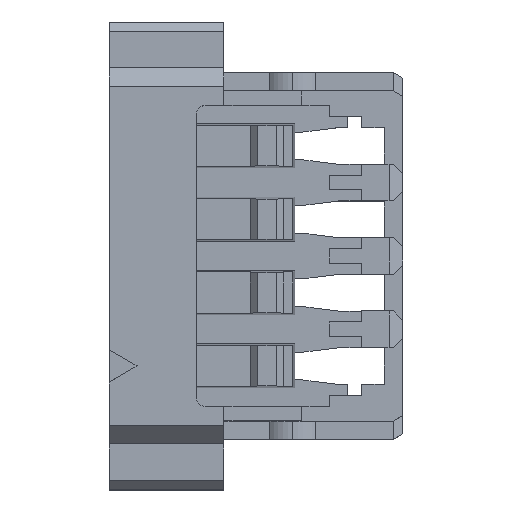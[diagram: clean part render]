
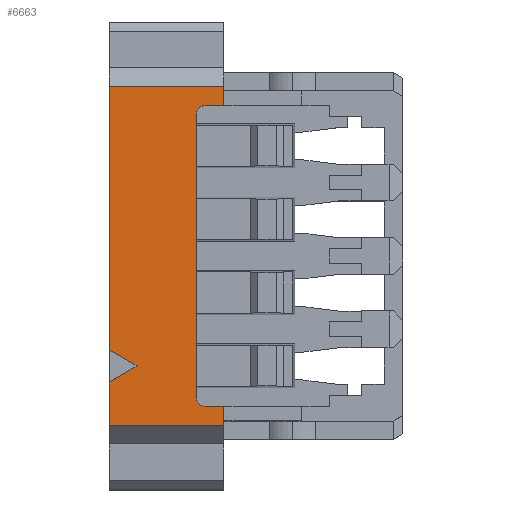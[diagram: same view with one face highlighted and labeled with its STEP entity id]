
A CAD part, top view. The second image highlights one B-rep face of the part: STEP entity #6663.
In plain terms, the highlighted planar face has unit normal (0, 0, 1).
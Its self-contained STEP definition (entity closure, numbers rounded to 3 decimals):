
#1533=DIRECTION('',(0.,-1.,0.));
#1534=VECTOR('',#1533,3.08);
#1535=CARTESIAN_POINT('',(0.85,-3.26,0.825));
#1536=LINE('',#1535,#1534);
#1718=DIRECTION('',(0.,1.,0.));
#1719=VECTOR('',#1718,0.475);
#1720=CARTESIAN_POINT('',(-0.1,-6.65,0.825));
#1721=LINE('',#1720,#1719);
#1842=DIRECTION('',(0.,-1.,0.));
#1843=VECTOR('',#1842,2.875);
#1844=CARTESIAN_POINT('',(-0.1,-2.95,0.825));
#1845=LINE('',#1844,#1843);
#1846=DIRECTION('',(0.,1.,0.));
#1847=VECTOR('',#1846,0.21);
#1848=CARTESIAN_POINT('',(1.15,-3.16,0.825));
#1849=LINE('',#1848,#1847);
#1850=DIRECTION('',(1.,0.,0.));
#1851=VECTOR('',#1850,0.2);
#1852=CARTESIAN_POINT('',(0.95,-3.16,0.825));
#1853=LINE('',#1852,#1851);
#1854=CARTESIAN_POINT('',(0.95,-3.26,0.825));
#1855=DIRECTION('',(0.,0.,-1.));
#1856=DIRECTION('',(-1.,0.,0.));
#1857=AXIS2_PLACEMENT_3D('',#1854,#1855,#1856);
#1859=CARTESIAN_POINT('',(0.95,-6.34,0.825));
#1860=DIRECTION('',(0.,0.,-1.));
#1861=DIRECTION('',(0.,-1.,0.));
#1862=AXIS2_PLACEMENT_3D('',#1859,#1860,#1861);
#1864=DIRECTION('',(-1.,0.,0.));
#1865=VECTOR('',#1864,0.2);
#1866=CARTESIAN_POINT('',(1.15,-6.44,0.825));
#1867=LINE('',#1866,#1865);
#1868=DIRECTION('',(0.,1.,0.));
#1869=VECTOR('',#1868,0.21);
#1870=CARTESIAN_POINT('',(1.15,-6.65,0.825));
#1871=LINE('',#1870,#1869);
#1872=DIRECTION('',(1.,0.,0.));
#1873=VECTOR('',#1872,1.25);
#1874=CARTESIAN_POINT('',(-0.1,-6.65,0.825));
#1875=LINE('',#1874,#1873);
#1876=DIRECTION('',(-0.866,-0.5,0.));
#1877=VECTOR('',#1876,0.35);
#1878=CARTESIAN_POINT('',(0.203,-6.,0.825));
#1879=LINE('',#1878,#1877);
#1880=DIRECTION('',(0.866,-0.5,0.));
#1881=VECTOR('',#1880,0.35);
#1882=CARTESIAN_POINT('',(-0.1,-5.825,0.825));
#1883=LINE('',#1882,#1881);
#1884=DIRECTION('',(1.,0.,0.));
#1885=VECTOR('',#1884,1.25);
#1886=CARTESIAN_POINT('',(-0.1,-2.95,0.825));
#1887=LINE('',#1886,#1885);
#3318=CARTESIAN_POINT('',(0.85,-3.26,0.825));
#3319=CARTESIAN_POINT('',(0.95,-3.16,0.825));
#3320=VERTEX_POINT('',#3318);
#3321=VERTEX_POINT('',#3319);
#3354=CARTESIAN_POINT('',(1.15,-6.44,0.825));
#3355=VERTEX_POINT('',#3354);
#3356=CARTESIAN_POINT('',(0.95,-6.44,0.825));
#3357=VERTEX_POINT('',#3356);
#3358=CARTESIAN_POINT('',(0.85,-6.34,0.825));
#3359=VERTEX_POINT('',#3358);
#3420=CARTESIAN_POINT('',(1.15,-6.65,0.825));
#3422=VERTEX_POINT('',#3420);
#3426=CARTESIAN_POINT('',(-0.1,-6.65,0.825));
#3427=VERTEX_POINT('',#3426);
#3433=CARTESIAN_POINT('',(-0.1,-6.175,0.825));
#3435=VERTEX_POINT('',#3433);
#3438=CARTESIAN_POINT('',(0.203,-6.,0.825));
#3439=VERTEX_POINT('',#3438);
#3442=CARTESIAN_POINT('',(-0.1,-5.825,0.825));
#3443=VERTEX_POINT('',#3442);
#3597=CARTESIAN_POINT('',(1.15,-2.95,0.825));
#3599=VERTEX_POINT('',#3597);
#3600=CARTESIAN_POINT('',(-0.1,-2.95,0.825));
#3601=VERTEX_POINT('',#3600);
#3742=CARTESIAN_POINT('',(1.15,-3.16,0.825));
#3743=VERTEX_POINT('',#3742);
#6638=CARTESIAN_POINT('',(0.75,6.4,0.825));
#6639=DIRECTION('',(0.,0.,1.));
#6640=DIRECTION('',(1.,0.,0.));
#6641=AXIS2_PLACEMENT_3D('',#6638,#6639,#6640);
#6642=PLANE('',#6641);
#6643=ORIENTED_EDGE('',*,*,#6552,.F.);
#6645=ORIENTED_EDGE('',*,*,#6644,.T.);
#6646=ORIENTED_EDGE('',*,*,#4258,.F.);
#6647=ORIENTED_EDGE('',*,*,#5672,.F.);
#6649=ORIENTED_EDGE('',*,*,#6648,.F.);
#6650=ORIENTED_EDGE('',*,*,#6340,.T.);
#6651=ORIENTED_EDGE('',*,*,#6182,.F.);
#6652=ORIENTED_EDGE('',*,*,#6169,.F.);
#6653=ORIENTED_EDGE('',*,*,#4296,.F.);
#6655=ORIENTED_EDGE('',*,*,#6654,.F.);
#6656=ORIENTED_EDGE('',*,*,#6560,.T.);
#6658=ORIENTED_EDGE('',*,*,#6657,.F.);
#6660=ORIENTED_EDGE('',*,*,#6659,.F.);
#6661=EDGE_LOOP('',(#6643,#6645,#6646,#6647,#6649,#6650,#6651,#6652,#6653,#6655,
#6656,#6658,#6660));
#6662=FACE_OUTER_BOUND('',#6661,.F.);
#6663=ADVANCED_FACE('',(#6662),#6642,.T.);
#1858=CIRCLE('',#1857,0.1);
#1863=CIRCLE('',#1862,0.1);
#4258=EDGE_CURVE('',#3743,#3599,#1849,.T.);
#4296=EDGE_CURVE('',#3422,#3355,#1871,.T.);
#5672=EDGE_CURVE('',#3321,#3743,#1853,.T.);
#6169=EDGE_CURVE('',#3355,#3357,#1867,.T.);
#6182=EDGE_CURVE('',#3357,#3359,#1863,.T.);
#6340=EDGE_CURVE('',#3320,#3359,#1536,.T.);
#6552=EDGE_CURVE('',#3601,#3443,#1845,.T.);
#6560=EDGE_CURVE('',#3427,#3435,#1721,.T.);
#6644=EDGE_CURVE('',#3601,#3599,#1887,.T.);
#6648=EDGE_CURVE('',#3320,#3321,#1858,.T.);
#6654=EDGE_CURVE('',#3427,#3422,#1875,.T.);
#6657=EDGE_CURVE('',#3439,#3435,#1879,.T.);
#6659=EDGE_CURVE('',#3443,#3439,#1883,.T.);
